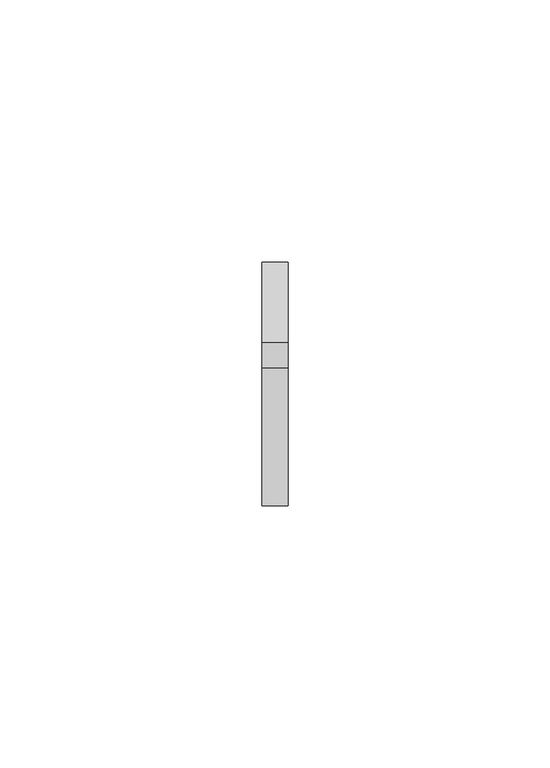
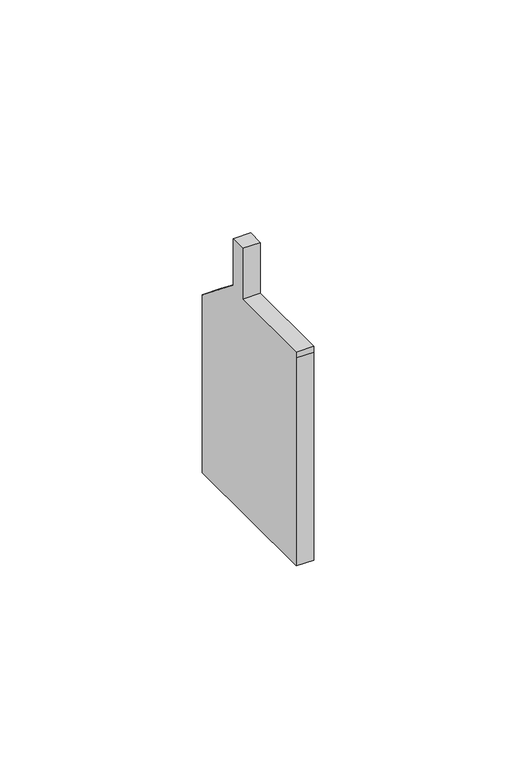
"""IFC4 building model written with IfcOpenShell, lengths in millimetres: proxy geometry, Odbojnik - OPK40 : Odbojnik - OPK40."""

from ifc_helpers import new_model, si_unit, frame, origin, place, context, project, spatial, polyline, outline, extrude, source, transform, mapped, element, save


def generic_models_18ada34d(model_context):
    return source(origin(), model_context, "Body", "SweptSolid", [
        extrude(outline(polyline([(14.1119039, 44.2426389), (14.1119039, 45.995721), (40.4327823, 45.995721), (40.4327823, 61.3237844), (45.2450267, 61.3237844), (45.2450267, 47.2116614), (60.6413328, 35.1289259), (60.6413328, 28.1269759), (60.6413328, -18.6204176), (14.1119039, -18.6204176), (14.1119039, 44.2426389)])), frame((-2.5, 0.0, 0.0), z_axis=(1.0, 0.0, 0.0), x_axis=(0.0, 1.0, 0.0)), (0.0, 0.0, 1.0), 5.0),
    ])


if __name__ == "__main__":
    model = new_model("IFC4")
    model_context = context("Model", 3, world=origin())
    ifc_project = project(units=[si_unit("LENGTHUNIT", "METRE", prefix="MILLI")], contexts=[model_context])
    site = spatial("IfcSite", under=ifc_project)
    building = spatial("IfcBuilding", under=site)
    placement = place(None, origin())
    generic_models_shape = generic_models_18ada34d(model_context)
    element("IfcBuildingElementProxy", 1, Name="Odbojnik - OPK40 : Odbojnik - OPK40", ObjectType="Odbojnik - OPK40 : Odbojnik - OPK40", at=placement, inside=building, context=model_context, shape_type="MappedRepresentation", body=[
        mapped(generic_models_shape, transform((0.0, 0.0, 0.0), x_axis=(1.0, 0.0, 0.0), y_axis=(0.0, 1.0, 0.0), z_axis=(0.0, 0.0, 1.0))),
    ])
    save(model, "model.ifc")
